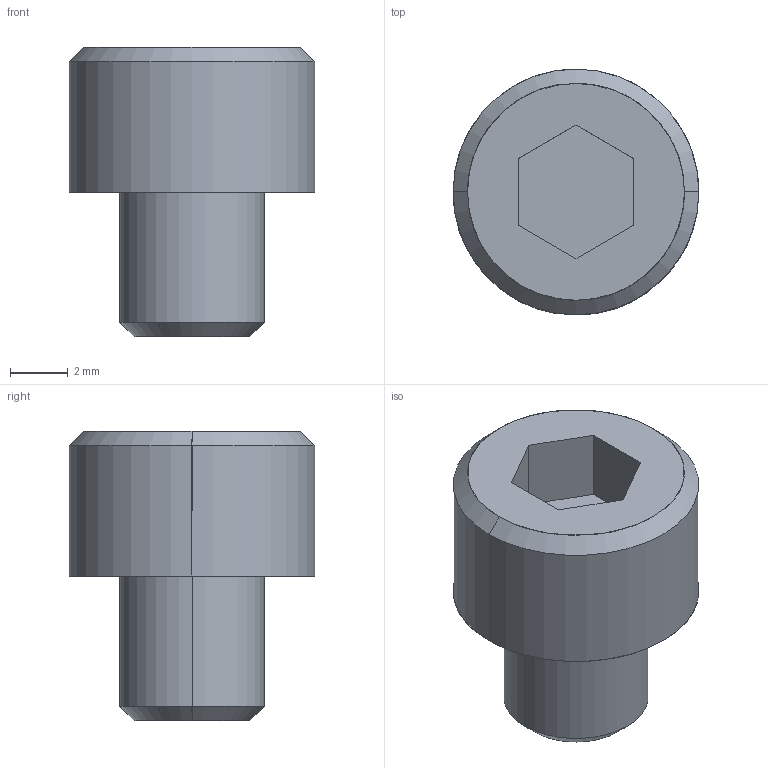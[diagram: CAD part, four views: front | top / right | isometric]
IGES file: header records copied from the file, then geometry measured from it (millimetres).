
Global section: file name: E:\UnigraphicsGraphicData\MISUMI_PRESS-PARTS\IGES\3d_cb5-5_00441_r00.igs; native system: NX V5.0; preprocessor: UGS NX IGES V5.0; author: MISUMI; date: 20110105.160147; units: millimetre
Bounding box: 8.5 x 8.5 x 10 mm (x, y, z)
Surface area: 347.4 mm2 (no closed solid volume)
Topology: 0 solids, 0 shells, 18 faces, 100 edges, 100 vertices
Faces by surface type: bspline 18
